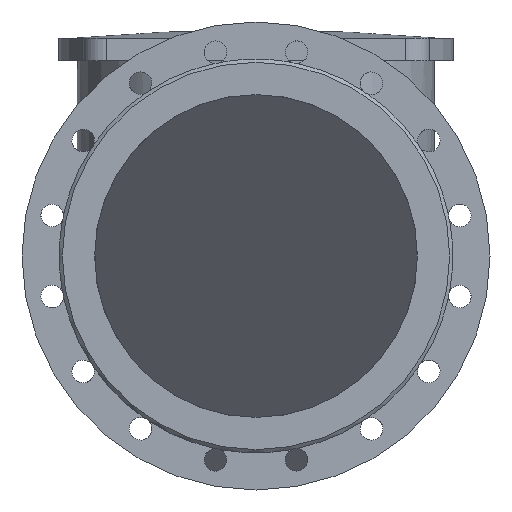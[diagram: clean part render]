
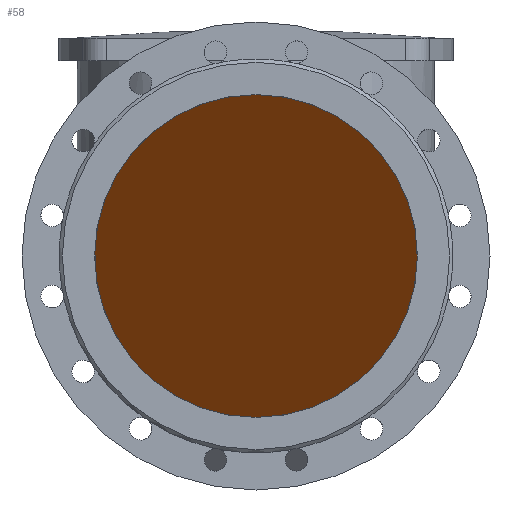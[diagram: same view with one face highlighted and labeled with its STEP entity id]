
A CAD part, front view. The second image highlights one B-rep face of the part: STEP entity #58.
In plain terms, the highlighted planar face has unit normal (0, -0.707, -0.707).
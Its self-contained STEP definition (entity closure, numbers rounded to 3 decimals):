
#58=ADVANCED_FACE('',(#806),#808,.T.);
#806=FACE_BOUND('',#807,.T.);
#807=EDGE_LOOP('',(#2745));
#808=PLANE('',#809);
#809=AXIS2_PLACEMENT_3D('',#810,#811,#812);
#810=CARTESIAN_POINT('',(-290.,-232.471,232.471));
#811=DIRECTION('',(0.,-0.707,-0.707));
#812=DIRECTION('',(0.,0.707,-0.707));
#2745=ORIENTED_EDGE('',*,*,#3270,.T.);
#3270=EDGE_CURVE('',#3529,#3529,#3530,.F.);
#3529=VERTEX_POINT('',#3980);
#3530=(BOUNDED_CURVE()B_SPLINE_CURVE(3,
(#3981,#3982,#3983,#3984,#3985,#3986,#3987),
.UNSPECIFIED.,.T.,.F.)B_SPLINE_CURVE_WITH_KNOTS((4,3,4),
(0.,0.5,1.),
.UNSPECIFIED.)CURVE()GEOMETRIC_REPRESENTATION_ITEM()RATIONAL_B_SPLINE_CURVE((1.,
0.333,0.333,1.,0.333,0.333,1.))
REPRESENTATION_ITEM(''));
#3980=CARTESIAN_POINT('',(0.,-200.,200.));
#3981=CARTESIAN_POINT('',(0.,-200.,200.));
#3982=CARTESIAN_POINT('',(400.,-200.,200.));
#3983=CARTESIAN_POINT('',(400.,200.,-200.));
#3984=CARTESIAN_POINT('',(0.,200.,-200.));
#3985=CARTESIAN_POINT('',(-400.,200.,-200.));
#3986=CARTESIAN_POINT('',(-400.,-200.,200.));
#3987=CARTESIAN_POINT('',(0.,-200.,200.));
